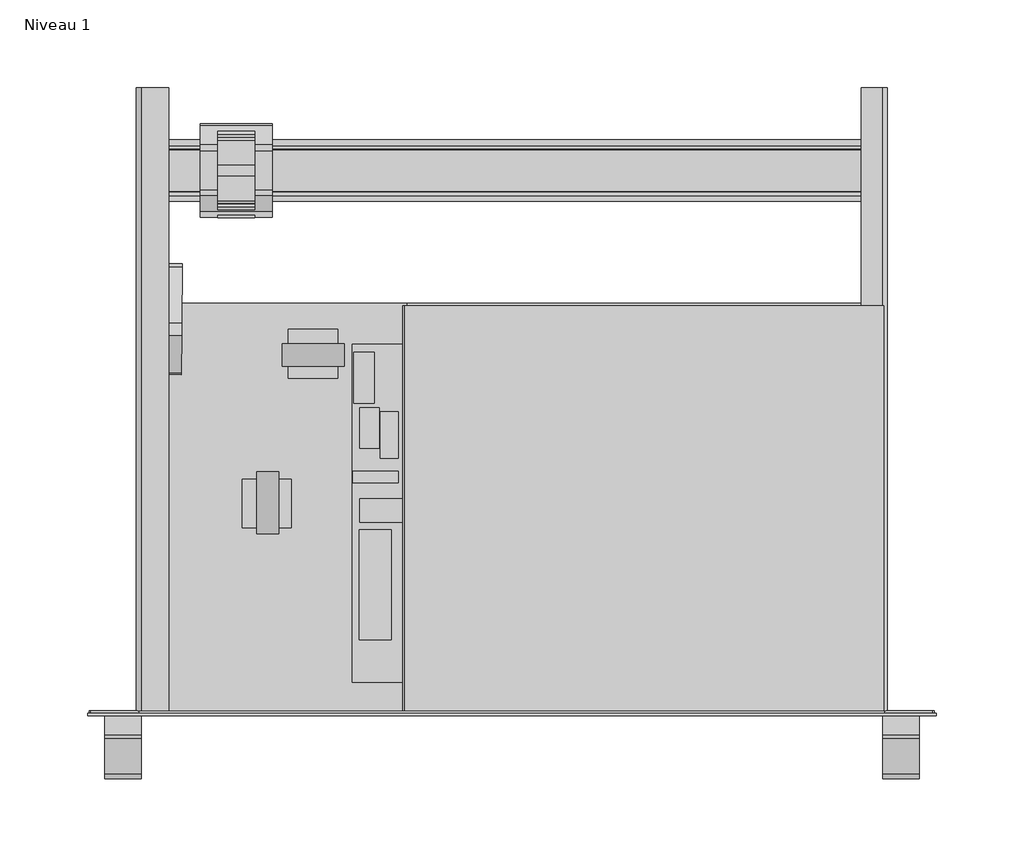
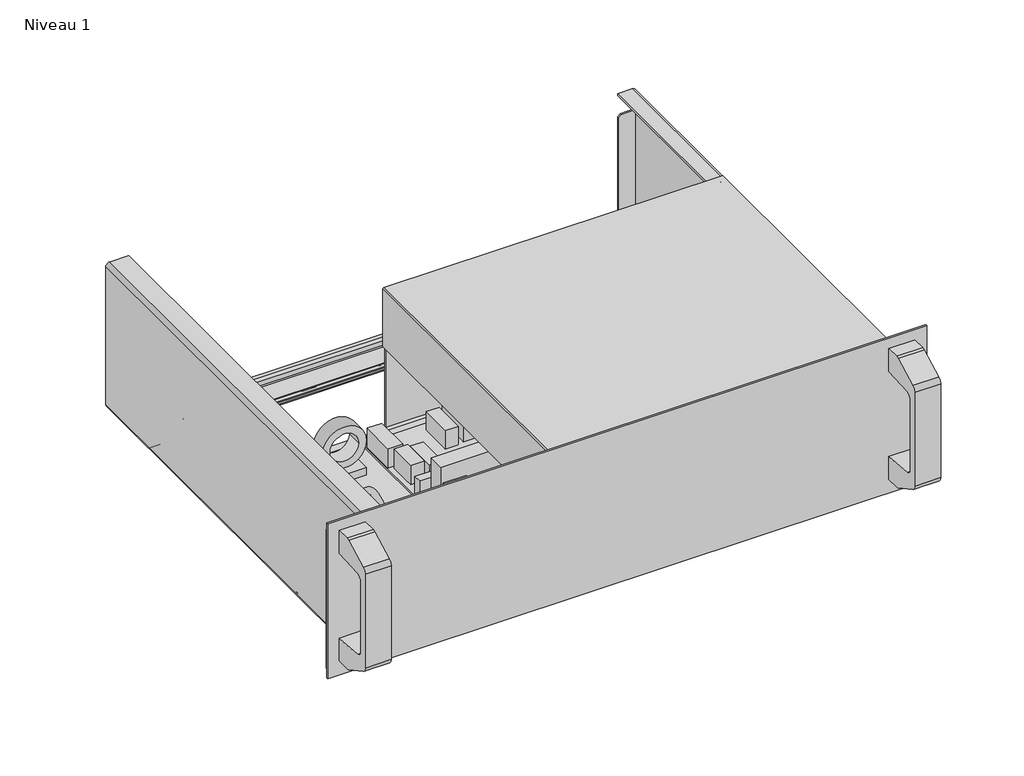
# One storey: 1 proxy.
"""IFC4 building model written with IfcOpenShell, lengths in millimetres."""

import ifcopenshell
import ifcopenshell.guid

model = None  # the IFC model being written
_history = None  # IfcOwnerHistory: only IFC2X3 demands one
_inside = {}  # id of a spatial element -> (the spatial element, [elements in it])
_under = {}  # id of a project, library or spatial element -> (it, [spatial elements below it])
_declared = {}  # id of a project -> (the project, [libraries it declares])
_typed = {}  # id of a type object -> (the type object, [elements of that type])
_made_of = {}  # id of a material, layer set ... -> (it, [elements and type objects made of it])


def new_model(schema):
    """Start an empty IFC model of exactly this schema.

    Asked for "IFC4X3", IfcOpenShell would pick the latest addendum, in which some entities
    have other attributes; the version numbers below select the first issue.
    IFC2X3 requires an IfcOwnerHistory on every rooted entity: one is made here for all.
    """
    global model, _history
    if schema == "IFC4X3":
        model = ifcopenshell.file(schema_version=(4, 3, 0, 0))
    else:
        model = ifcopenshell.file(schema=schema)
    _inside.clear()
    _under.clear()
    _declared.clear()
    _typed.clear()
    _made_of.clear()
    _history = None
    if model.schema == "IFC2X3":
        org = make("IfcOrganization", Name="unknown")
        user = make(
            "IfcPersonAndOrganization",
            ThePerson=make("IfcPerson", FamilyName="unknown"),
            TheOrganization=org,
        )
        app = make(
            "IfcApplication",
            ApplicationDeveloper=org,
            Version="unknown",
            ApplicationFullName="unknown",
            ApplicationIdentifier="unknown",
        )
        _history = make(
            "IfcOwnerHistory",
            OwningUser=user,
            OwningApplication=app,
            ChangeAction="ADDED",
            CreationDate=0,
        )
    return model


def make(cls, **values):
    """One entity of the class cls with the attributes given. An attribute that is None is left unset."""
    return model.create_entity(
        cls, **{name: value for name, value in values.items() if value is not None}
    )


def rooted(cls, **values):
    """An entity with a GlobalId (a new one), such as an element, a storey or a relation."""
    return make(cls, GlobalId=ifcopenshell.guid.new(), OwnerHistory=_history, **values)


def si_unit(unit_type, name, prefix=None):
    """IfcSIUnit, for example si_unit("LENGTHUNIT", "METRE", prefix="MILLI")."""
    return make("IfcSIUnit", UnitType=unit_type, Prefix=prefix, Name=name)


def assignment(units):
    """IfcUnitAssignment: the units of a project."""
    return None if units is None else make("IfcUnitAssignment", Units=units)


def point(xyz):
    """IfcCartesianPoint."""
    return None if xyz is None else make("IfcCartesianPoint", Coordinates=xyz)


def direction(xyz):
    """IfcDirection."""
    return None if xyz is None else make("IfcDirection", DirectionRatios=xyz)


def frame(location, z_axis=None, x_axis=None):
    """IfcAxis2Placement3D, a coordinate frame: its origin and axes. An axis left out is left unset."""
    return make(
        "IfcAxis2Placement3D",
        Location=point(location),
        Axis=direction(z_axis),
        RefDirection=direction(x_axis),
    )


def frame_2d(location, x_axis=None):
    """IfcAxis2Placement2D, a coordinate frame in the plane: its origin and x axis."""
    return make(
        "IfcAxis2Placement2D", Location=point(location), RefDirection=direction(x_axis)
    )


def origin():
    """The frame at (0, 0, 0) with its axes left unset."""
    return frame((0.0, 0.0, 0.0))


def origin_with_axes():
    """The frame at (0, 0, 0) with the z axis (0, 0, 1) and the x axis (1, 0, 0) written out."""
    return frame((0.0, 0.0, 0.0), z_axis=(0.0, 0.0, 1.0), x_axis=(1.0, 0.0, 0.0))


def place(relative_to, where):
    """IfcLocalPlacement: puts the frame where relative to a parent placement (None: the world)."""
    return make(
        "IfcLocalPlacement", PlacementRelTo=relative_to, RelativePlacement=where
    )


def context(
    kind, dimensions, precision=None, world=None, true_north=None, identifier=None
):
    """IfcGeometricRepresentationContext, for example the 3D "Model" context."""
    return make(
        "IfcGeometricRepresentationContext",
        ContextIdentifier=identifier,
        ContextType=kind,
        CoordinateSpaceDimension=dimensions,
        Precision=precision,
        WorldCoordinateSystem=world,
        TrueNorth=true_north,
    )


def project(units=None, contexts=None):
    """IfcProject with its units and contexts."""
    return rooted(
        "IfcProject",
        Name="project",
        RepresentationContexts=contexts,
        UnitsInContext=assignment(units),
    )


def spatial(cls, under=None, at=None, **own):
    """A site, building, storey or space (cls), placed at a placement, below another one or the project."""
    s = rooted(cls, ObjectPlacement=at, **own)
    if under is not None:
        _under.setdefault(under.id(), (under, []))[1].append(s)
    return s


def polyline(points):
    """IfcPolyline through the points."""
    return make("IfcPolyline", Points=[point(p) for p in points])


def circle_curve(where, radius):
    """IfcCircle in the frame where."""
    return make("IfcCircle", Position=where, Radius=radius)


def trimmed(basis, trim1, trim2, sense, master):
    """IfcTrimmedCurve: the piece of a basis curve between two trims."""
    return make(
        "IfcTrimmedCurve",
        BasisCurve=basis,
        Trim1=trim1,
        Trim2=trim2,
        SenseAgreement=sense,
        MasterRepresentation=master,
    )


def segment(curve, same_sense, transition):
    """IfcCompositeCurveSegment."""
    return make(
        "IfcCompositeCurveSegment",
        Transition=transition,
        SameSense=same_sense,
        ParentCurve=curve,
    )


def composite_curve(segments, self_intersect=None):
    """IfcCompositeCurve: segments joined end to end."""
    return make("IfcCompositeCurve", Segments=segments, SelfIntersect=self_intersect)


def outline(outer, holes=None, kind="AREA"):
    """IfcArbitraryClosedProfileDef: a profile drawn as a closed curve; with holes, ...WithVoids."""
    if holes is None:
        return make("IfcArbitraryClosedProfileDef", ProfileType=kind, OuterCurve=outer)
    return make(
        "IfcArbitraryProfileDefWithVoids",
        ProfileType=kind,
        OuterCurve=outer,
        InnerCurves=holes,
    )


def extrude(swept, where, along, depth):
    """IfcExtrudedAreaSolid: the profile swept, set in the frame where, extruded along a direction by depth."""
    return make(
        "IfcExtrudedAreaSolid",
        SweptArea=swept,
        Position=where,
        ExtrudedDirection=direction(along),
        Depth=depth,
    )


def shape(context_of_items, identifier, shape_type, items):
    """IfcShapeRepresentation: the items that make up one representation, for example the "Body"."""
    return make(
        "IfcShapeRepresentation",
        ContextOfItems=context_of_items,
        RepresentationIdentifier=identifier,
        RepresentationType=shape_type,
        Items=items,
    )


def source(mapping_origin, context_of_items, identifier, shape_type, items):
    """IfcRepresentationMap: a shape defined once, which mapped items show again and again."""
    return make(
        "IfcRepresentationMap",
        MappingOrigin=mapping_origin,
        MappedRepresentation=shape(context_of_items, identifier, shape_type, items),
    )


def transform(
    local_origin,
    x_axis=None,
    y_axis=None,
    z_axis=None,
    scale=None,
    scale2=None,
    scale3=None,
    uniform=True,
):
    """IfcCartesianTransformationOperator3D, or its non-uniform kind. x_axis, y_axis, z_axis: its Axis1, 2, 3."""
    if uniform:
        return make(
            "IfcCartesianTransformationOperator3D",
            Axis1=direction(x_axis),
            Axis2=direction(y_axis),
            LocalOrigin=point(local_origin),
            Scale=scale,
            Axis3=direction(z_axis),
        )
    return make(
        "IfcCartesianTransformationOperator3DnonUniform",
        Axis1=direction(x_axis),
        Axis2=direction(y_axis),
        LocalOrigin=point(local_origin),
        Scale=scale,
        Axis3=direction(z_axis),
        Scale2=scale2,
        Scale3=scale3,
    )


def mapped(mapping_source, mapping_target):
    """IfcMappedItem: shows the shape of a source again, moved by a transform."""
    return make(
        "IfcMappedItem", MappingSource=mapping_source, MappingTarget=mapping_target
    )


def made_of(thing, what):
    """Note that an element or type object is made of a material, layer set ...; save() writes the relation."""
    if what is not None:
        _made_of.setdefault(what.id(), (what, []))[1].append(thing)
    return thing


def element(
    cls,
    number,
    at=None,
    inside=None,
    cuts=None,
    type_object=None,
    material=None,
    context=None,
    identifier="Body",
    shape_type=None,
    held_by="IfcProductDefinitionShape",
    body=None,
    shapes=None,
    **own,
):
    """One element of the class cls, such as IfcWall. Its Tag is "e" and its number.

    at: its placement. inside: the storey or other place that contains it. cuts: it is an
    opening in that element (IfcRelVoidsElement). A single representation is given by context,
    identifier, shape_type and body (its items); several are given by shapes. held_by: the class
    of the entity that holds the representations. save() writes the other relations.
    """
    e = rooted(cls, Tag="e%d" % number, ObjectPlacement=at, **own)
    if body is not None:
        shapes = [shape(context, identifier, shape_type, body)]
    if shapes is not None:
        e.Representation = make(held_by, Representations=shapes)
    if inside is not None:
        _inside.setdefault(inside.id(), (inside, []))[1].append(e)
    if cuts is not None:
        rooted(
            "IfcRelVoidsElement", RelatingBuildingElement=cuts, RelatedOpeningElement=e
        )
    if type_object is not None:
        _typed.setdefault(type_object.id(), (type_object, []))[1].append(e)
    return made_of(e, material)


def aggregate(whole, parts):
    """IfcRelAggregates: a whole, such as a stair, and the parts it consists of."""
    return rooted("IfcRelAggregates", RelatingObject=whole, RelatedObjects=parts)


def save(model, path):
    """Write the relations noted so far, then the file.

    IfcRelAggregates (storeys below a building ...), IfcRelContainedInSpatialStructure (elements
    in a storey), IfcRelDefinesByType, IfcRelAssociatesMaterial and IfcRelDeclares: one each for
    every whole, place, type object, material and project.
    """
    for whole, parts in _under.values():
        aggregate(whole, parts)
    for where, things in _inside.values():
        rooted(
            "IfcRelContainedInSpatialStructure",
            RelatedElements=things,
            RelatingStructure=where,
        )
    for kind, things in _typed.values():
        rooted("IfcRelDefinesByType", RelatedObjects=things, RelatingType=kind)
    for what, things in _made_of.values():
        rooted("IfcRelAssociatesMaterial", RelatedObjects=things, RelatingMaterial=what)
    for by, libraries in _declared.values():
        rooted("IfcRelDeclares", RelatingContext=by, RelatedDefinitions=libraries)
    model.write(path)


def electrical_equipment_aec54d99(model_context):
    return source(origin(), model_context, "Body", "SweptSolid", [
        extrude(outline(polyline([(-72.7569732, 16.9845943), (33.7706268, 16.9845943), (33.7706268, 3.7100417), (-72.7569732, 3.7100417), (-72.7569732, 16.9845943)])), frame((0.0, 0.0, 19.1), z_axis=(0.0, 0.0, 1.0), x_axis=(1.0, 0.0, 0.0)), (0.0, 0.0, 1.0), 40.2),
        extrude(outline(composite_curve([segment(trimmed(circle_curve(frame_2d((-36.429194, -14.4402246)), 6.7), [point((-43.129194, -14.4402246))], [point((-29.729194, -14.4402246))], False, "CARTESIAN"), True, "CONTINUOUS"), segment(trimmed(circle_curve(frame_2d((-36.429194, -14.4402246)), 6.7), [point((-29.729194, -14.4402246))], [point((-43.129194, -14.4402246))], False, "CARTESIAN"), True, "CONTINUOUS")], self_intersect=False)), frame((0.0, 0.0, 19.1), z_axis=(0.0, 0.0, 1.0), x_axis=(1.0, 0.0, 0.0)), (0.0, 0.0, 1.0), 31.5),
        extrude(outline(composite_curve([segment(trimmed(circle_curve(frame_2d((-34.5093887, -36.0838951)), 7.1), [point((-41.6093887, -36.0838951))], [point((-27.4093887, -36.0838951))], False, "CARTESIAN"), True, "CONTINUOUS"), segment(trimmed(circle_curve(frame_2d((-34.5093887, -36.0838951)), 7.1), [point((-27.4093887, -36.0838951))], [point((-41.6093887, -36.0838951))], False, "CARTESIAN"), True, "CONTINUOUS")], self_intersect=False)), frame((0.0, 0.0, 19.1), z_axis=(0.0, 0.0, 1.0), x_axis=(1.0, 0.0, 0.0)), (0.0, 0.0, 1.0), 31.5),
        extrude(outline(composite_curve([segment(trimmed(circle_curve(frame_2d((-40.6186425, -51.8764288)), 6.8), [point((-47.4186425, -51.8764288))], [point((-33.8186425, -51.8764288))], False, "CARTESIAN"), True, "CONTINUOUS"), segment(trimmed(circle_curve(frame_2d((-40.6186425, -51.8764288)), 6.8), [point((-33.8186425, -51.8764288))], [point((-47.4186425, -51.8764288))], False, "CARTESIAN"), True, "CONTINUOUS")], self_intersect=False)), frame((0.0, 0.0, 19.1), z_axis=(0.0, 0.0, 1.0), x_axis=(1.0, 0.0, 0.0)), (0.0, 0.0, 1.0), 31.5),
        extrude(outline(polyline([(-21.2703727, -25.5856057), (7.7618273, -25.5856057), (7.7618273, -37.3966057), (-21.2703727, -37.3966057), (-21.2703727, -25.5856057)])), frame((0.0, 0.0, 17.5), z_axis=(0.0, 0.0, 1.0), x_axis=(1.0, 0.0, 0.0)), (0.0, 0.0, 1.0), 17.8),
        extrude(outline(polyline([(-21.2703727, -9.9646057), (7.3880344, -9.9646057), (7.3880344, -22.1300845), (-21.2703727, -22.1300845), (-21.2703727, -9.9646057)])), frame((0.0, 0.0, 17.5), z_axis=(0.0, 0.0, 1.0), x_axis=(1.0, 0.0, 0.0)), (0.0, 0.0, 1.0), 17.8),
        extrude(outline(polyline([(-21.0417727, -71.2294057), (-21.0417727, -42.1972057), (-9.2307727, -42.1972057), (-9.2307727, -71.2294057), (-21.0417727, -71.2294057)])), frame((0.0, 0.0, 17.5), z_axis=(0.0, 0.0, 1.0), x_axis=(1.0, 0.0, 0.0)), (0.0, 0.0, 1.0), 17.8),
        extrude(outline(polyline([(-50.8105727, 32.701795), (-50.8105727, 26.1933546), (-76.8963727, 26.1933546), (-76.8963727, 32.701795), (-50.8105727, 32.701795)])), frame((0.0, 0.0, 17.5), z_axis=(0.0, 0.0, 1.0), x_axis=(1.0, 0.0, 0.0)), (0.0, 0.0, 1.0), 17.8),
        extrude(outline(polyline([(-61.7587732, 68.7245943), (-61.7587732, 45.8645943), (-72.7569732, 45.8645943), (-72.7569732, 68.7245943), (-61.7587732, 68.7245943)])), frame((0.0, 0.0, 17.5), z_axis=(0.0, 0.0, 1.0), x_axis=(1.0, 0.0, 0.0)), (0.0, 0.0, 1.0), 17.8),
        extrude(outline(polyline([(-64.5265727, 100.3475943), (-64.5265727, 71.3153943), (-76.3375727, 71.3153943), (-76.3375727, 100.3475943), (-64.5265727, 100.3475943)])), frame((0.0, 0.0, 17.5), z_axis=(0.0, 0.0, 1.0), x_axis=(1.0, 0.0, 0.0)), (0.0, 0.0, 1.0), 17.8),
        extrude(outline(polyline([(-50.8105727, 66.5655943), (-50.8105727, 40.0479943), (-61.1900833, 40.0479943), (-61.1900833, 66.5655943), (-50.8105727, 66.5655943)])), frame((0.0, 0.0, 17.5), z_axis=(0.0, 0.0, 1.0), x_axis=(1.0, 0.0, 0.0)), (0.0, 0.0, 1.0), 17.8),
        extrude(outline(polyline([(-111.9035169, 28.2806945), (-111.9035169, 0.6367966), (-139.6936789, 0.6367966), (-139.6936789, 28.2806945), (-111.9035169, 28.2806945)])), frame((0.0, 0.0, 7.5), z_axis=(0.0, 0.0, 1.0), x_axis=(1.0, 0.0, 0.0)), (0.0, 0.0, 1.0), 6.5411735),
        extrude(outline(polyline([(-85.4693798, 113.6425951), (-85.4693798, 85.5525919), (-113.559383, 85.5525919), (-113.559383, 113.6425951), (-85.4693798, 113.6425951)])), frame((0.0, 0.0, 7.5), z_axis=(0.0, 0.0, 1.0), x_axis=(1.0, 0.0, 0.0)), (0.0, 0.0, 1.0), 6.5411735),
        extrude(outline(composite_curve([segment(polyline([(129.0, 225.5526273), (129.0, -47.4473727)]), True, "CONTINUOUS"), segment(trimmed(circle_curve(frame_2d((128.0, -47.4473727)), 1.0), [point((129.0, -47.4473727))], [point((128.0, -48.4473727))], False, "CARTESIAN"), True, "CONTINUOUS"), segment(polyline([(128.0, -48.4473727), (79.0, -48.4473727), (79.0, -47.4473727), (128.0, -47.4473727), (128.0, 225.5526273), (129.0, 225.5526273)]), True, "CONTINUOUS")], self_intersect=False)), frame((0.0, -103.5804057, 0.0), z_axis=(0.0, 1.0, 0.0), x_axis=(0.0, 0.0, 1.0)), (0.0, 0.0, 1.0), 230.5),
        extrude(outline(composite_curve([segment(trimmed(circle_curve(frame_2d((14.8869551, 31.5628403)), 17.6593111), [point((32.5462662, 31.5628403))], [point((-2.7723559, 31.5628403))], False, "CARTESIAN"), True, "CONTINUOUS"), segment(trimmed(circle_curve(frame_2d((14.8869551, 31.5628403)), 17.6593111), [point((-2.7723559, 31.5628403))], [point((32.5462662, 31.5628403))], False, "CARTESIAN"), True, "CONTINUOUS")], self_intersect=False), holes=[composite_curve([segment(trimmed(circle_curve(frame_2d((14.8869551, 31.5628403)), 11.5), [point((26.3869551, 31.5628403))], [point((3.3869551, 31.5628403))], True, "CARTESIAN"), True, "CONTINUOUS"), segment(trimmed(circle_curve(frame_2d((14.8869551, 31.5628403)), 11.5), [point((3.3869551, 31.5628403))], [point((26.3869551, 31.5628403))], True, "CARTESIAN"), True, "CONTINUOUS")], self_intersect=False)]), frame((-131.5973727, 0.0, 0.0), z_axis=(1.0, 0.0, 0.0), x_axis=(0.0, 1.0, 0.0)), (0.0, 0.0, 1.0), 12.75),
        extrude(outline(composite_curve([segment(trimmed(circle_curve(frame_2d((36.1, 151.0880473)), 17.6593111), [point((36.1, 168.7473583))], [point((36.1, 133.4287362))], False, "CARTESIAN"), True, "CONTINUOUS"), segment(trimmed(circle_curve(frame_2d((36.1, 151.0880473)), 17.6593111), [point((36.1, 133.4287362))], [point((36.1, 168.7473583))], False, "CARTESIAN"), True, "CONTINUOUS")], self_intersect=False), holes=[composite_curve([segment(trimmed(circle_curve(frame_2d((36.1, 151.0880473)), 11.5), [point((36.1, 162.5880473))], [point((36.1, 139.5880473))], True, "CARTESIAN"), True, "CONTINUOUS"), segment(trimmed(circle_curve(frame_2d((36.1, 151.0880473)), 11.5), [point((36.1, 139.5880473))], [point((36.1, 162.5880473))], True, "CARTESIAN"), True, "CONTINUOUS")], self_intersect=False)]), frame((0.0, 39.6966943, 0.0), z_axis=(0.0, 1.0, 0.0), x_axis=(0.0, 0.0, 1.0)), (0.0, 0.0, 1.0), 18.0),
        extrude(outline(composite_curve([segment(trimmed(circle_curve(frame_2d((36.1, 76.9425516)), 17.0), [point((36.1, 93.9425516))], [point((36.1, 59.9425516))], False, "CARTESIAN"), True, "CONTINUOUS"), segment(trimmed(circle_curve(frame_2d((36.1, 76.9425516)), 17.0), [point((36.1, 59.9425516))], [point((36.1, 93.9425516))], False, "CARTESIAN"), True, "CONTINUOUS")], self_intersect=False), holes=[composite_curve([segment(trimmed(circle_curve(frame_2d((36.1, 76.9425516)), 11.5), [point((36.1, 88.4425516))], [point((36.1, 65.4425516))], True, "CARTESIAN"), True, "CONTINUOUS"), segment(trimmed(circle_curve(frame_2d((36.1, 76.9425516)), 11.5), [point((36.1, 65.4425516))], [point((36.1, 88.4425516))], True, "CARTESIAN"), True, "CONTINUOUS")], self_intersect=False)]), frame((0.0, -36.8549363, 0.0), z_axis=(0.0, 1.0, 0.0), x_axis=(0.0, 0.0, 1.0)), (0.0, 0.0, 1.0), 12.75),
        extrude(outline(composite_curve([segment(trimmed(circle_curve(frame_2d((36.1, 36.4625333)), 17.6593111), [point((36.1, 54.1218443))], [point((36.1, 18.8032222))], False, "CARTESIAN"), True, "CONTINUOUS"), segment(trimmed(circle_curve(frame_2d((36.1, 36.4625333)), 17.6593111), [point((36.1, 18.8032222))], [point((36.1, 54.1218443))], False, "CARTESIAN"), True, "CONTINUOUS")], self_intersect=False), holes=[composite_curve([segment(trimmed(circle_curve(frame_2d((36.1, 36.4625333)), 11.5), [point((36.1, 47.9625333))], [point((36.1, 24.9625333))], True, "CARTESIAN"), True, "CONTINUOUS"), segment(trimmed(circle_curve(frame_2d((36.1, 36.4625333)), 11.5), [point((36.1, 24.9625333))], [point((36.1, 47.9625333))], True, "CARTESIAN"), True, "CONTINUOUS")], self_intersect=False)]), frame((0.0, -36.8549363, 0.0), z_axis=(0.0, 1.0, 0.0), x_axis=(0.0, 0.0, 1.0)), (0.0, 0.0, 1.0), 12.75),
        extrude(outline(composite_curve([segment(trimmed(circle_curve(frame_2d((31.5628403, -99.2386196)), 17.6593111), [point((31.5628403, -81.5793086))], [point((31.5628403, -116.8979307))], False, "CARTESIAN"), True, "CONTINUOUS"), segment(trimmed(circle_curve(frame_2d((31.5628403, -99.2386196)), 17.6593111), [point((31.5628403, -116.8979307))], [point((31.5628403, -81.5793086))], False, "CARTESIAN"), True, "CONTINUOUS")], self_intersect=False), holes=[composite_curve([segment(trimmed(circle_curve(frame_2d((31.5628403, -99.2386196)), 11.5), [point((31.5628403, -87.7386196))], [point((31.5628403, -110.7386196))], True, "CARTESIAN"), True, "CONTINUOUS"), segment(trimmed(circle_curve(frame_2d((31.5628403, -99.2386196)), 11.5), [point((31.5628403, -110.7386196))], [point((31.5628403, -87.7386196))], True, "CARTESIAN"), True, "CONTINUOUS")], self_intersect=False)]), frame((0.0, 92.4195943, 0.0), z_axis=(0.0, 1.0, 0.0), x_axis=(0.0, 0.0, 1.0)), (0.0, 0.0, 1.0), 12.75),
        extrude(outline(polyline([(-54.7983727, -0.4904057), (-54.7983727, -63.3554057), (-73.2133727, -63.3554057), (-73.2133727, -0.4904057), (-54.7983727, -0.4904057)])), frame((0.0, 0.0, 19.1), z_axis=(0.0, 0.0, 1.0), x_axis=(1.0, 0.0, 0.0)), (0.0, 0.0, 1.0), 29.5),
        extrude(outline(polyline([(167.0808273, -43.9650679), (167.0808273, -73.1742057), (167.0808273, -86.3958226), (147.0808273, -86.3958226), (36.9442273, -86.3958226), (36.9442273, -56.3716057), (147.0808273, -56.3716057), (147.0808273, -43.9650679), (167.0808273, -43.9650679)])), frame((0.0, 0.0, 19.1), z_axis=(0.0, 0.0, 1.0), x_axis=(1.0, 0.0, 0.0)), (0.0, 0.0, 1.0), 45.0),
        extrude(outline(polyline([(128.7611737, 64.1017943), (128.7611737, 38.0667943), (120.4730775, 38.0667943), (120.4730775, 64.1017943), (128.7611737, 64.1017943)])), frame((0.0, 0.0, 17.5), z_axis=(0.0, 0.0, 1.0), x_axis=(1.0, 0.0, 0.0)), (0.0, 0.0, 1.0), 17.8),
        extrude(outline(polyline([(171.7442273, -87.5616057), (-77.0233727, -87.5616057), (-77.0233727, 104.9957943), (171.7442273, 104.9957943), (171.7442273, -87.5616057)])), frame((0.0, 0.0, 17.5), z_axis=(0.0, 0.0, 1.0), x_axis=(1.0, 0.0, 0.0)), (0.0, 0.0, 1.0), 1.6),
        extrude(outline(polyline([(161.0508273, 30.2943943), (161.0508273, -28.1256057), (100.8020273, -28.1256057), (100.8020273, 30.2943943), (161.0508273, 30.2943943)])), frame((0.0, 0.0, 19.1), z_axis=(0.0, 0.0, 1.0), x_axis=(1.0, 0.0, 0.0)), (0.0, 0.0, 1.0), 55.0),
        extrude(outline(polyline([(-20.2035727, 97.1725943), (-20.2035727, 70.6549943), (-30.5830833, 70.6549943), (-30.5830833, 97.1725943), (-20.2035727, 97.1725943)])), frame((0.0, 0.0, 17.5), z_axis=(0.0, 0.0, 1.0), x_axis=(1.0, 0.0, 0.0)), (0.0, 0.0, 1.0), 17.8),
        extrude(outline(polyline([(167.0808273, 101.8257943), (167.0808273, 71.8257943), (167.0808273, 61.2614943), (147.0808273, 61.2614943), (147.0808273, 71.8257943), (-15.1357727, 71.8257943), (-15.1357727, 101.8257943), (167.0808273, 101.8257943)])), frame((0.0, 0.0, 19.1), z_axis=(0.0, 0.0, 1.0), x_axis=(1.0, 0.0, 0.0)), (0.0, 0.0, 1.0), 45.0),
        extrude(outline(composite_curve([segment(trimmed(circle_curve(frame_2d((102.3743586, 50.3664957)), 17.6348629), [point((84.7394956, 50.3664957))], [point((120.0092215, 50.3664957))], False, "CARTESIAN"), True, "CONTINUOUS"), segment(trimmed(circle_curve(frame_2d((102.3743586, 50.3664957)), 17.6348629), [point((120.0092215, 50.3664957))], [point((84.7394956, 50.3664957))], False, "CARTESIAN"), True, "CONTINUOUS")], self_intersect=False)), frame((0.0, 0.0, 19.1), z_axis=(0.0, 0.0, 1.0), x_axis=(1.0, 0.0, 0.0)), (0.0, 0.0, 1.0), 42.0),
        extrude(outline(composite_curve([segment(trimmed(circle_curve(frame_2d((66.596714, 50.2520288)), 17.6348629), [point((48.9618511, 50.2520288))], [point((84.231577, 50.2520288))], False, "CARTESIAN"), True, "CONTINUOUS"), segment(trimmed(circle_curve(frame_2d((66.596714, 50.2520288)), 17.6348629), [point((84.231577, 50.2520288))], [point((48.9618511, 50.2520288))], False, "CARTESIAN"), True, "CONTINUOUS")], self_intersect=False)), frame((0.0, 0.0, 19.1), z_axis=(0.0, 0.0, 1.0), x_axis=(1.0, 0.0, 0.0)), (0.0, 0.0, 1.0), 42.0),
        extrude(outline(composite_curve([segment(trimmed(circle_curve(frame_2d((84.2982971, -8.7470869)), 8.2), [point((76.0982971, -8.7470869))], [point((92.4982971, -8.7470869))], False, "CARTESIAN"), True, "CONTINUOUS"), segment(trimmed(circle_curve(frame_2d((84.2982971, -8.7470869)), 8.2), [point((92.4982971, -8.7470869))], [point((76.0982971, -8.7470869))], False, "CARTESIAN"), True, "CONTINUOUS")], self_intersect=False)), frame((0.0, 0.0, 19.1), z_axis=(0.0, 0.0, 1.0), x_axis=(1.0, 0.0, 0.0)), (0.0, 0.0, 1.0), 37.0),
        extrude(outline(composite_curve([segment(trimmed(circle_curve(frame_2d((66.412201, -8.7470869)), 8.2), [point((58.212201, -8.7470869))], [point((74.612201, -8.7470869))], False, "CARTESIAN"), True, "CONTINUOUS"), segment(trimmed(circle_curve(frame_2d((66.412201, -8.7470869)), 8.2), [point((74.612201, -8.7470869))], [point((58.212201, -8.7470869))], False, "CARTESIAN"), True, "CONTINUOUS")], self_intersect=False)), frame((0.0, 0.0, 19.1), z_axis=(0.0, 0.0, 1.0), x_axis=(1.0, 0.0, 0.0)), (0.0, 0.0, 1.0), 37.0),
        extrude(outline(composite_curve([segment(trimmed(circle_curve(frame_2d((49.3707124, -8.7470869)), 8.2), [point((41.1707124, -8.7470869))], [point((57.5707124, -8.7470869))], False, "CARTESIAN"), True, "CONTINUOUS"), segment(trimmed(circle_curve(frame_2d((49.3707124, -8.7470869)), 8.2), [point((57.5707124, -8.7470869))], [point((41.1707124, -8.7470869))], False, "CARTESIAN"), True, "CONTINUOUS")], self_intersect=False)), frame((0.0, 0.0, 19.1), z_axis=(0.0, 0.0, 1.0), x_axis=(1.0, 0.0, 0.0)), (0.0, 0.0, 1.0), 37.0),
        extrude(outline(composite_curve([segment(polyline([(125.4195943, 124.5), (118.4195943, 124.5), (113.4195943, 124.5), (113.4195943, 126.0), (118.4195943, 126.0), (125.4195943, 126.0)]), True, "CONTINUOUS"), segment(trimmed(circle_curve(frame_2d((125.4195943, 123.0)), 3.0), [point((125.4195943, 126.0))], [point((128.4195943, 123.0))], False, "CARTESIAN"), True, "CONTINUOUS"), segment(polyline([(128.4195943, 123.0), (128.4195943, 9.0)]), True, "CONTINUOUS"), segment(trimmed(circle_curve(frame_2d((125.4195943, 9.0)), 3.0), [point((128.4195943, 9.0))], [point((125.4195943, 6.0))], False, "CARTESIAN"), True, "CONTINUOUS"), segment(polyline([(125.4195943, 6.0), (-103.5804057, 6.0), (-103.5804057, 7.5), (125.4195943, 7.5)]), True, "CONTINUOUS"), segment(trimmed(circle_curve(frame_2d((125.4195943, 9.0)), 1.5), [point((125.4195943, 7.5))], [point((126.9195943, 9.0))], True, "CARTESIAN"), True, "CONTINUOUS"), segment(polyline([(126.9195943, 9.0), (126.9195943, 123.0)]), True, "CONTINUOUS"), segment(trimmed(circle_curve(frame_2d((125.4195943, 123.0)), 1.5), [point((126.9195943, 123.0))], [point((125.4195943, 124.5))], True, "CARTESIAN"), True, "CONTINUOUS")], self_intersect=False)), frame((-45.8473727, 0.0, 0.0), z_axis=(1.0, 0.0, 0.0), x_axis=(0.0, 1.0, 0.0)), (0.0, 0.0, 1.0), 270.4),
        extrude(outline(polyline([(222.5526273, -103.5804057), (-194.8473727, -103.5804057), (-196.8473727, -101.5804057), (-196.8026476, 126.4643194), (-194.8473727, 128.4195943), (-45.8473727, 128.4195943), (-45.8473727, 125.4195943), (224.5526273, 125.4195943), (224.5526273, -101.5804057), (222.5526273, -103.5804057)])), frame((0.0, 0.0, 6.0), z_axis=(0.0, 0.0, 1.0), x_axis=(1.0, 0.0, 0.0)), (0.0, 0.0, 1.0), 1.5),
        extrude(outline(polyline([(25.7676273, -77.5794057), (-6.2307727, -77.5794057), (-9.2307727, -74.5794057), (-9.2307727, -44.8162057), (-6.2307727, -41.8162057), (25.7676273, -41.8162057), (28.7676273, -44.8162057), (28.7676273, -74.5794057), (25.7676273, -77.5794057)])), frame((0.0, 0.0, 19.1), z_axis=(0.0, 0.0, 1.0), x_axis=(1.0, 0.0, 0.0)), (0.0, 0.0, 1.0), 49.3),
        extrude(outline(composite_curve([segment(trimmed(circle_curve(frame_2d((0.0, -2.0)), 2.0), [point((-2.0, -2.0))], [point((0.0, 0.0))], False, "CARTESIAN"), True, "CONTINUOUS"), segment(polyline([(0.0, 0.0), (24.0, 0.0)]), True, "CONTINUOUS"), segment(trimmed(circle_curve(frame_2d((24.0, -2.0)), 2.0), [point((24.0, 0.0))], [point((26.0, -2.0))], False, "CARTESIAN"), True, "CONTINUOUS"), segment(polyline([(26.0, -2.0), (26.0, -26.0)]), True, "CONTINUOUS"), segment(trimmed(circle_curve(frame_2d((24.0, -26.0)), 2.0), [point((26.0, -26.0))], [point((24.0, -28.0))], False, "CARTESIAN"), True, "CONTINUOUS"), segment(polyline([(24.0, -28.0), (0.0, -28.0)]), True, "CONTINUOUS"), segment(trimmed(circle_curve(frame_2d((0.0, -26.0)), 2.0), [point((0.0, -28.0))], [point((-2.0, -26.0))], False, "CARTESIAN"), True, "CONTINUOUS"), segment(polyline([(-2.0, -26.0), (-2.0, -2.0)]), True, "CONTINUOUS")], self_intersect=False)), frame((-193.8376728, 151.7097301, 78.25), z_axis=(-0.999952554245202, 0.009741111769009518, 0.0), x_axis=(0.0, 0.0, -1.0)), (0.0, 0.0, 1.0), 2.25),
        extrude(outline(composite_curve([segment(polyline([(-34.5, 1e-07), (0.0, 0.0)]), True, "CONTINUOUS"), segment(trimmed(circle_curve(frame_2d((0.0, -4.9999999)), 5.0), [point((0.0, 0.0))], [point((5.0, -5.0))], False, "CARTESIAN"), True, "CONTINUOUS"), segment(polyline([(5.0, -5.0), (5.0, -45.5)]), True, "CONTINUOUS"), segment(trimmed(circle_curve(frame_2d((0.0, -45.4999999)), 5.0), [point((5.0, -45.5))], [point((0.0, -50.4999999))], False, "CARTESIAN"), True, "CONTINUOUS"), segment(polyline([(0.0, -50.4999999), (-34.5, -50.5)]), True, "CONTINUOUS"), segment(trimmed(circle_curve(frame_2d((-34.4999999, -45.5)), 5.0), [point((-34.5, -50.5))], [point((-39.5, -45.5))], False, "CARTESIAN"), True, "CONTINUOUS"), segment(polyline([(-39.5, -45.5), (-39.5, -4.9999999)]), True, "CONTINUOUS"), segment(trimmed(circle_curve(frame_2d((-34.5, -5.0)), 5.0), [point((-39.5, -4.9999999))], [point((-34.5, 1e-07))], False, "CARTESIAN"), True, "CONTINUOUS")], self_intersect=False)), frame((-174.4008274, 88.6700192, 59.3965701), z_axis=(-0.9999525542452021, 0.009741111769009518, 0.0), x_axis=(-0.005982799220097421, -0.6141511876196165, -0.7891657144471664)), (0.0, 0.0, 1.0), 22.3),
        extrude(outline(composite_curve([segment(polyline([(214.8061102, 42.0), (214.8061102, 39.77), (218.5030687, 39.77)]), True, "CONTINUOUS"), segment(trimmed(circle_curve(frame_2d((233.295733, 37.6855986)), 14.9387967), [point((218.5030687, 39.77))], [point((229.6869268, 23.1892485))], True, "CARTESIAN"), True, "CONTINUOUS"), segment(trimmed(circle_curve(frame_2d((229.1630734, 21.8125078)), 1.4730368), [point((229.6869268, 23.1892485))], [point((230.6361102, 21.8125078))], False, "CARTESIAN"), True, "CONTINUOUS"), segment(polyline([(230.6361102, 21.8125078), (230.6361102, 7.02), (177.1761102, 7.02), (177.1761102, 21.2676011)]), True, "CONTINUOUS"), segment(trimmed(circle_curve(frame_2d((181.0684245, 20.0682858)), 4.0728943), [point((177.1761102, 21.2676011))], [point((180.6544516, 24.1200871))], False, "CARTESIAN"), True, "CONTINUOUS"), segment(trimmed(circle_curve(frame_2d((167.6048379, 42.4611749)), 22.5097294), [point((180.6544516, 24.1200871))], [point((189.914943, 39.47))], True, "CARTESIAN"), True, "CONTINUOUS"), segment(polyline([(189.914943, 39.47), (193.0061102, 39.47), (193.0061102, 42.0), (214.8061102, 42.0)]), True, "CONTINUOUS")], self_intersect=False)), frame((-163.5789488, 0.0, 0.0), z_axis=(1.0, 0.0, 0.0), x_axis=(0.0, 1.0, 0.0)), (0.0, 0.0, 1.0), 40.85),
        extrude(outline(composite_curve([segment(polyline([(200.5311102, 55.5), (200.5311102, 48.0), (207.2811102, 48.0), (207.2811102, 55.5), (221.1561102, 55.5), (222.4949907, 54.1611195), (221.1446745, 52.8108033), (222.9643802, 47.210325), (224.6479699, 47.7573564), (226.1561102, 45.5214465), (226.1561102, 7.02), (177.1761102, 7.02), (177.1761102, 21.2676011)]), True, "CONTINUOUS"), segment(trimmed(circle_curve(frame_2d((179.3298135, 21.7331989)), 2.2034562), [point((177.1761102, 21.2676011))], [point((179.6190043, 23.9175954))], False, "CARTESIAN"), True, "CONTINUOUS"), segment(trimmed(circle_curve(frame_2d((178.536913, 32.1995402)), 8.352337), [point((179.6190043, 23.9175954))], [point((181.6561102, 24.4514991))], True, "CARTESIAN"), True, "CONTINUOUS"), segment(polyline([(181.6561102, 24.4514991), (181.6561102, 45.4999995), (183.1983583, 47.8084084), (184.9721071, 47.266119), (186.6619821, 52.7934513), (185.2938903, 54.1615431), (186.6323472, 55.5), (200.5311102, 55.5)]), True, "CONTINUOUS")], self_intersect=False)), frame((-153.5789488, 0.0, 0.0), z_axis=(1.0, 0.0, 0.0), x_axis=(0.0, 1.0, 0.0)), (0.0, 0.0, 1.0), 20.981576),
        extrude(outline(composite_curve([segment(polyline([(186.4061102, 13.5), (189.6061102, 13.5)]), True, "CONTINUOUS"), segment(trimmed(circle_curve(frame_2d((189.6061102, 11.7)), 1.8), [point((189.6061102, 13.5))], [point((191.4061102, 11.7))], False, "CARTESIAN"), True, "CONTINUOUS"), segment(polyline([(191.4061102, 11.7), (191.4061102, 7.8)]), True, "CONTINUOUS"), segment(trimmed(circle_curve(frame_2d((192.2061102, 7.8)), 0.8), [point((191.4061102, 7.8))], [point((192.2061102, 7.0))], True, "CARTESIAN"), True, "CONTINUOUS"), segment(polyline([(192.2061102, 7.0), (215.6061102, 7.0)]), True, "CONTINUOUS"), segment(trimmed(circle_curve(frame_2d((215.6061102, 7.8)), 0.8), [point((215.6061102, 7.0))], [point((216.4061102, 7.8))], True, "CARTESIAN"), True, "CONTINUOUS"), segment(polyline([(216.4061102, 7.8), (216.4061102, 11.7)]), True, "CONTINUOUS"), segment(trimmed(circle_curve(frame_2d((218.2072777, 11.7)), 1.8011675), [point((216.4061102, 11.7))], [point((218.1424361, 13.5))], False, "CARTESIAN"), True, "CONTINUOUS"), segment(polyline([(218.1424361, 13.5), (221.4061102, 13.5), (221.4061102, 12.5), (218.2061102, 12.5)]), True, "CONTINUOUS"), segment(trimmed(circle_curve(frame_2d((218.2061102, 11.7)), 0.8), [point((218.2061102, 12.5))], [point((217.4061102, 11.7))], True, "CARTESIAN"), True, "CONTINUOUS"), segment(polyline([(217.4061102, 11.7), (217.4061102, 7.5)]), True, "CONTINUOUS"), segment(trimmed(circle_curve(frame_2d((215.6061102, 7.83)), 1.83), [point((217.4061102, 7.5))], [point((215.6061102, 6.0))], False, "CARTESIAN"), True, "CONTINUOUS"), segment(polyline([(215.6061102, 6.0), (192.2061102, 6.0)]), True, "CONTINUOUS"), segment(trimmed(circle_curve(frame_2d((192.2061102, 7.8)), 1.8), [point((192.2061102, 6.0))], [point((190.4061102, 7.8))], False, "CARTESIAN"), True, "CONTINUOUS"), segment(polyline([(190.4061102, 7.8), (190.4061102, 11.7)]), True, "CONTINUOUS"), segment(trimmed(circle_curve(frame_2d((189.6061102, 11.7)), 0.8), [point((190.4061102, 11.7))], [point((189.6061102, 12.5))], True, "CARTESIAN"), True, "CONTINUOUS"), segment(polyline([(189.6061102, 12.5), (186.4061102, 12.5), (186.4061102, 13.5)]), True, "CONTINUOUS")], self_intersect=False)), frame((-198.5574135, 0.0, 0.0), z_axis=(1.0, 0.0, 0.0), x_axis=(0.0, 1.0, 0.0)), (0.0, 0.0, 1.0), 425.4100408),
        extrude(outline(polyline([(108.5, 212.5526273), (24.0, 212.5526273), (22.0, 214.5526273), (22.0, 226.0526273), (110.5, 226.0526273), (110.5, 214.5526273), (108.5, 212.5526273)])), frame((0.0, 249.4195943, 0.0), z_axis=(0.0, 1.0, 0.0), x_axis=(0.0, 0.0, 1.0)), (0.0, 0.0, 1.0), 1.5),
        extrude(outline(polyline([(22.0, -198.5574135), (22.0, -183.6213063), (24.0, -181.6214012), (108.5, -181.6214012), (110.5, -183.6213063), (110.5, -195.1207607), (110.5, -198.5574135), (22.0, -198.5574135)])), frame((0.0, 249.4195943, 0.0), z_axis=(0.0, 1.0, 0.0), x_axis=(0.0, 0.0, 1.0)), (0.0, 0.0, 1.0), 1.5),
        extrude(outline(polyline([(126.5, 253.3526273), (126.5, 226.0526273), (125.2589841, 226.0526273), (6.0, 226.0526273), (6.0, 253.3526273), (7.0, 254.3526273), (125.5, 254.3526273), (126.5, 253.3526273)])), frame((0.0, -105.0804057, 0.0), z_axis=(0.0, 1.0, 0.0), x_axis=(0.0, 0.0, 1.0)), (0.0, 0.0, 1.0), 1.5),
        extrude(outline(polyline([(126.5, -225.8726895), (125.5, -226.8726421), (7.0, -226.8726421), (6.0, -225.8726895), (6.0, -198.5574135), (126.5, -198.5574135), (126.5, -225.8726895)])), frame((0.0, -105.0804057, 0.0), z_axis=(0.0, 1.0, 0.0), x_axis=(0.0, 0.0, 1.0)), (0.0, 0.0, 1.0), 1.5),
        extrude(outline(composite_curve([segment(polyline([(126.5, -181.6408834), (128.0, -181.6408834), (128.0, -197.0574135)]), True, "CONTINUOUS"), segment(trimmed(circle_curve(frame_2d((124.987765, -197.0574135)), 3.012235), [point((128.0, -197.0574135))], [point((125.2589841, -200.0574135))], False, "CARTESIAN"), True, "CONTINUOUS"), segment(polyline([(125.2589841, -200.0574135), (7.5, -200.0574135)]), True, "CONTINUOUS"), segment(trimmed(circle_curve(frame_2d((7.5, -197.0574135)), 3.0), [point((7.5, -200.0574135))], [point((4.5, -197.0574135))], False, "CARTESIAN"), True, "CONTINUOUS"), segment(polyline([(4.5, -197.0574135), (4.5, -181.6408834), (6.0, -181.6408834), (6.0, -197.0574135)]), True, "CONTINUOUS"), segment(trimmed(circle_curve(frame_2d((7.8, -196.7274135)), 1.83), [point((6.0, -197.0574135))], [point((7.8, -198.5574135))], True, "CARTESIAN"), True, "CONTINUOUS"), segment(polyline([(7.8, -198.5574135), (125.2589841, -198.5574135)]), True, "CONTINUOUS"), segment(trimmed(circle_curve(frame_2d((124.9729767, -197.0574135)), 1.5270233), [point((125.2589841, -198.5574135))], [point((126.5, -197.0574135))], True, "CARTESIAN"), True, "CONTINUOUS"), segment(polyline([(126.5, -197.0574135), (126.5, -181.6408834)]), True, "CONTINUOUS")], self_intersect=False)), frame((0.0, -103.5804057, 0.0), z_axis=(0.0, 1.0, 0.0), x_axis=(0.0, 0.0, 1.0)), (0.0, 0.0, 1.0), 354.5573443),
        extrude(outline(composite_curve([segment(polyline([(126.5, 212.5526273), (126.5, 224.5526273)]), True, "CONTINUOUS"), segment(trimmed(circle_curve(frame_2d((124.9729767, 224.5526273)), 1.5270233), [point((126.5, 224.5526273))], [point((125.2589841, 226.0526273))], True, "CARTESIAN"), True, "CONTINUOUS"), segment(polyline([(125.2589841, 226.0526273), (7.8, 226.0526273)]), True, "CONTINUOUS"), segment(trimmed(circle_curve(frame_2d((7.8, 224.2226273)), 1.83), [point((7.8, 226.0526273))], [point((6.0, 224.5526273))], True, "CARTESIAN"), True, "CONTINUOUS"), segment(polyline([(6.0, 224.5526273), (6.0, 212.5526273), (4.5, 212.5526273), (4.5, 224.5526273)]), True, "CONTINUOUS"), segment(trimmed(circle_curve(frame_2d((7.5, 224.5526273)), 3.0), [point((4.5, 224.5526273))], [point((7.5, 227.5526273))], False, "CARTESIAN"), True, "CONTINUOUS"), segment(polyline([(7.5, 227.5526273), (125.2589841, 227.5526273)]), True, "CONTINUOUS"), segment(trimmed(circle_curve(frame_2d((124.987765, 224.5526273)), 3.012235), [point((125.2589841, 227.5526273))], [point((128.0, 224.5526273))], False, "CARTESIAN"), True, "CONTINUOUS"), segment(polyline([(128.0, 224.5526273), (128.0, 212.5526273), (126.5, 212.5526273)]), True, "CONTINUOUS")], self_intersect=False)), frame((0.0, -103.5804057, 0.0), z_axis=(0.0, 1.0, 0.0), x_axis=(0.0, 0.0, 1.0)), (0.0, 0.0, 1.0), 354.5573443),
        extrude(outline(composite_curve([segment(polyline([(-117.331115, 123.1995201), (-106.5804057, 123.1995201), (-106.5804057, 103.6995201), (-131.8561096, 101.9320707)]), True, "CONTINUOUS"), segment(trimmed(circle_curve(frame_2d((-131.5073272, 96.9442505)), 5.0), [point((-131.8561096, 101.9320707))], [point((-136.5073272, 96.9442505))], True, "CARTESIAN"), True, "CONTINUOUS"), segment(polyline([(-136.5073272, 96.9442505), (-136.5073272, 38.0557495)]), True, "CONTINUOUS"), segment(trimmed(circle_curve(frame_2d((-131.5073272, 38.0557495)), 5.0), [point((-136.5073272, 38.0557495))], [point((-131.8561096, 33.0679293))], True, "CARTESIAN"), True, "CONTINUOUS"), segment(polyline([(-131.8561096, 33.0679293), (-106.5804057, 31.3004799), (-106.5804057, 11.8004799), (-117.331115, 11.8004799)]), True, "CONTINUOUS"), segment(trimmed(circle_curve(frame_2d((-117.331115, 16.8004799)), 5.0), [point((-117.331115, 11.8004799))], [point((-119.682878, 12.388087))], False, "CARTESIAN"), True, "CONTINUOUS"), segment(polyline([(-119.682878, 12.388087), (-139.7590902, 23.0885151)]), True, "CONTINUOUS"), segment(trimmed(circle_curve(frame_2d((-137.4073272, 27.500908)), 5.0), [point((-139.7590902, 23.0885151))], [point((-142.4073272, 27.500908))], False, "CARTESIAN"), True, "CONTINUOUS"), segment(polyline([(-142.4073272, 27.500908), (-142.4073272, 107.499092)]), True, "CONTINUOUS"), segment(trimmed(circle_curve(frame_2d((-137.4073272, 107.499092)), 5.0), [point((-142.4073272, 107.499092))], [point((-139.7590902, 111.9114849))], False, "CARTESIAN"), True, "CONTINUOUS"), segment(polyline([(-139.7590902, 111.9114849), (-119.682878, 122.611913)]), True, "CONTINUOUS"), segment(trimmed(circle_curve(frame_2d((-117.331115, 118.1995201)), 5.0), [point((-119.682878, 122.611913))], [point((-117.331115, 123.1995201))], False, "CARTESIAN"), True, "CONTINUOUS")], self_intersect=False)), frame((224.8526273, 0.0, 0.0), z_axis=(1.0, 0.0, 0.0), x_axis=(0.0, 1.0, 0.0)), (0.0, 0.0, 1.0), 21.0),
        extrude(outline(composite_curve([segment(polyline([(-117.331115, 123.1995201), (-106.5804057, 123.1995201), (-106.5804057, 103.6995201), (-131.8561096, 101.9320707)]), True, "CONTINUOUS"), segment(trimmed(circle_curve(frame_2d((-131.5073272, 96.9442505)), 5.0), [point((-131.8561096, 101.9320707))], [point((-136.5073272, 96.9442505))], True, "CARTESIAN"), True, "CONTINUOUS"), segment(polyline([(-136.5073272, 96.9442505), (-136.5073272, 38.0557495)]), True, "CONTINUOUS"), segment(trimmed(circle_curve(frame_2d((-131.5073272, 38.0557495)), 5.0), [point((-136.5073272, 38.0557495))], [point((-131.8561096, 33.0679293))], True, "CARTESIAN"), True, "CONTINUOUS"), segment(polyline([(-131.8561096, 33.0679293), (-106.5804057, 31.3004799), (-106.5804057, 11.8004799), (-117.331115, 11.8004799)]), True, "CONTINUOUS"), segment(trimmed(circle_curve(frame_2d((-117.331115, 16.8004799)), 5.0), [point((-117.331115, 11.8004799))], [point((-119.682878, 12.388087))], False, "CARTESIAN"), True, "CONTINUOUS"), segment(polyline([(-119.682878, 12.388087), (-139.7590902, 23.0885151)]), True, "CONTINUOUS"), segment(trimmed(circle_curve(frame_2d((-137.4073272, 27.500908)), 5.0), [point((-139.7590902, 23.0885151))], [point((-142.4073272, 27.500908))], False, "CARTESIAN"), True, "CONTINUOUS"), segment(polyline([(-142.4073272, 27.500908), (-142.4073272, 107.499092)]), True, "CONTINUOUS"), segment(trimmed(circle_curve(frame_2d((-137.4073272, 107.499092)), 5.0), [point((-142.4073272, 107.499092))], [point((-139.7590902, 111.9114849))], False, "CARTESIAN"), True, "CONTINUOUS"), segment(polyline([(-139.7590902, 111.9114849), (-119.682878, 122.611913)]), True, "CONTINUOUS"), segment(trimmed(circle_curve(frame_2d((-117.331115, 118.1995201)), 5.0), [point((-119.682878, 122.611913))], [point((-117.331115, 123.1995201))], False, "CARTESIAN"), True, "CONTINUOUS")], self_intersect=False)), frame((-218.1473727, 0.0, 0.0), z_axis=(1.0, 0.0, 0.0), x_axis=(0.0, 1.0, 0.0)), (0.0, 0.0, 1.0), 21.0),
        extrude(outline(polyline([(255.3526273, -105.0804057), (255.3526273, -106.5804057), (-227.6473727, -106.5804057), (-227.6473727, -105.0804057), (255.3526273, -105.0804057)])), origin_with_axes(), (0.0, 0.0, 1.0), 132.0),
    ])


model = new_model("IFC4")

# Units and contexts
model_context = context("Model", 3, world=origin())
ifc_project = project(units=[si_unit("LENGTHUNIT", "METRE", prefix="MILLI")], contexts=[model_context])

# Site, building, storey
site = spatial("IfcSite", under=ifc_project)
building = spatial("IfcBuilding", under=site)
storey = spatial("IfcBuildingStorey", under=building, Name="Niveau 1", Elevation=0.0)

# Proxy
placement = place(None, origin())
electrical_equipment_shape = electrical_equipment_aec54d99(model_context)
element("IfcBuildingElementProxy", 1, Name="EV 12A 48A RACK : EV 12A 48A RACK", ObjectType="EV 12A 48A RACK : EV 12A 48A RACK", at=placement, inside=storey, context=model_context, shape_type="MappedRepresentation", body=[
    mapped(electrical_equipment_shape, transform((-4214.1945361, 462.4630218, 0.0), x_axis=(1.0, 0.0, 0.0), y_axis=(0.0, 1.0, 0.0), z_axis=(0.0, 0.0, 1.0))),
])

save(model, "model.ifc")
